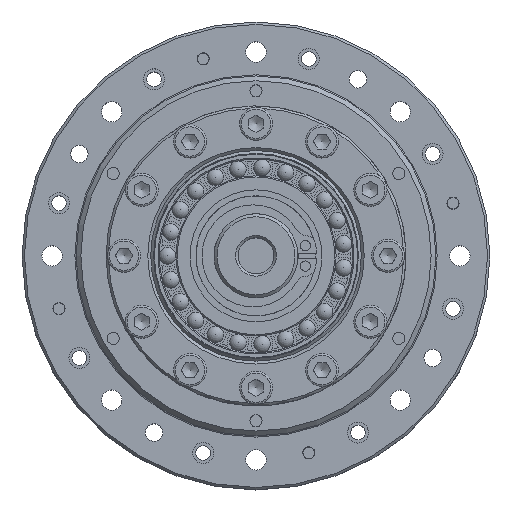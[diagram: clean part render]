
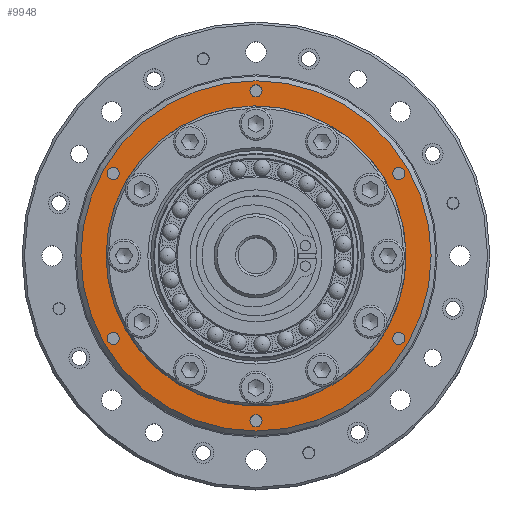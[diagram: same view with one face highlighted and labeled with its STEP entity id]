
A CAD part, top view. The second image highlights one B-rep face of the part: STEP entity #9948.
In plain terms, the highlighted planar face has unit normal (0, 0, 1).
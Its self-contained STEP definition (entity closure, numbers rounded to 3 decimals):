
#1292=PLANE('',#11117);
#1689=FACE_BOUND('',#3203,.T.);
#1690=FACE_BOUND('',#3204,.T.);
#1691=FACE_BOUND('',#3205,.T.);
#1692=FACE_BOUND('',#3206,.T.);
#1693=FACE_BOUND('',#3207,.T.);
#1694=FACE_BOUND('',#3208,.T.);
#1695=FACE_BOUND('',#3209,.T.);
#1696=FACE_BOUND('',#3210,.T.);
#3203=EDGE_LOOP('',(#7845));
#3204=EDGE_LOOP('',(#7846));
#3205=EDGE_LOOP('',(#7847));
#3206=EDGE_LOOP('',(#7848));
#3207=EDGE_LOOP('',(#7849));
#3208=EDGE_LOOP('',(#7850));
#3209=EDGE_LOOP('',(#7851));
#3210=EDGE_LOOP('',(#7852));
#4080=CIRCLE('',#11089,1.007);
#4081=CIRCLE('',#11091,1.007);
#4082=CIRCLE('',#11093,1.007);
#4083=CIRCLE('',#11095,1.007);
#4084=CIRCLE('',#11097,1.007);
#4085=CIRCLE('',#11099,1.007);
#4096=CIRCLE('',#11118,24.65);
#4097=CIRCLE('',#11119,29.2);
#4837=VERTEX_POINT('',#16978);
#4838=VERTEX_POINT('',#16981);
#4839=VERTEX_POINT('',#16984);
#4840=VERTEX_POINT('',#16987);
#4841=VERTEX_POINT('',#16990);
#4842=VERTEX_POINT('',#16993);
#4853=VERTEX_POINT('',#17023);
#4854=VERTEX_POINT('',#17025);
#5924=EDGE_CURVE('',#4837,#4837,#4080,.T.);
#5925=EDGE_CURVE('',#4838,#4838,#4081,.T.);
#5926=EDGE_CURVE('',#4839,#4839,#4082,.T.);
#5927=EDGE_CURVE('',#4840,#4840,#4083,.T.);
#5928=EDGE_CURVE('',#4841,#4841,#4084,.T.);
#5929=EDGE_CURVE('',#4842,#4842,#4085,.T.);
#5940=EDGE_CURVE('',#4853,#4853,#4096,.T.);
#5941=EDGE_CURVE('',#4854,#4854,#4097,.T.);
#7845=ORIENTED_EDGE('',*,*,#5940,.T.);
#7846=ORIENTED_EDGE('',*,*,#5929,.T.);
#7847=ORIENTED_EDGE('',*,*,#5928,.T.);
#7848=ORIENTED_EDGE('',*,*,#5927,.T.);
#7849=ORIENTED_EDGE('',*,*,#5926,.T.);
#7850=ORIENTED_EDGE('',*,*,#5925,.T.);
#7851=ORIENTED_EDGE('',*,*,#5924,.T.);
#7852=ORIENTED_EDGE('',*,*,#5941,.F.);
#9948=ADVANCED_FACE('',(#1689,#1690,#1691,#1692,#1693,#1694,#1695,#1696),
#1292,.T.);
#11089=AXIS2_PLACEMENT_3D('',#16979,#13531,#13532);
#11091=AXIS2_PLACEMENT_3D('',#16982,#13535,#13536);
#11093=AXIS2_PLACEMENT_3D('',#16985,#13539,#13540);
#11095=AXIS2_PLACEMENT_3D('',#16988,#13543,#13544);
#11097=AXIS2_PLACEMENT_3D('',#16991,#13547,#13548);
#11099=AXIS2_PLACEMENT_3D('',#16994,#13551,#13552);
#11117=AXIS2_PLACEMENT_3D('',#17022,#13587,#13588);
#11118=AXIS2_PLACEMENT_3D('',#17024,#13589,#13590);
#11119=AXIS2_PLACEMENT_3D('',#17026,#13591,#13592);
#13531=DIRECTION('center_axis',(0.,0.,-1.));
#13532=DIRECTION('ref_axis',(-1.,0.,0.));
#13535=DIRECTION('center_axis',(0.,0.,-1.));
#13536=DIRECTION('ref_axis',(-1.,0.,0.));
#13539=DIRECTION('center_axis',(0.,0.,-1.));
#13540=DIRECTION('ref_axis',(-1.,0.,0.));
#13543=DIRECTION('center_axis',(0.,0.,-1.));
#13544=DIRECTION('ref_axis',(-1.,0.,0.));
#13547=DIRECTION('center_axis',(0.,0.,-1.));
#13548=DIRECTION('ref_axis',(-1.,0.,0.));
#13551=DIRECTION('center_axis',(0.,0.,-1.));
#13552=DIRECTION('ref_axis',(-1.,0.,0.));
#13587=DIRECTION('center_axis',(0.,0.,1.));
#13588=DIRECTION('ref_axis',(-1.,0.,0.));
#13589=DIRECTION('center_axis',(0.,0.,-1.));
#13590=DIRECTION('ref_axis',(1.,0.,0.));
#13591=DIRECTION('center_axis',(0.,0.,-1.));
#13592=DIRECTION('ref_axis',(0.,-1.,0.));
#16978=CARTESIAN_POINT('',(-24.822,-13.75,21.));
#16979=CARTESIAN_POINT('Origin',(-23.816,-13.75,21.));
#16981=CARTESIAN_POINT('',(-1.007,27.5,21.));
#16982=CARTESIAN_POINT('Origin',(0.,27.5,21.));
#16984=CARTESIAN_POINT('',(22.809,-13.75,21.));
#16985=CARTESIAN_POINT('Origin',(23.816,-13.75,21.));
#16987=CARTESIAN_POINT('',(-1.007,-27.5,21.));
#16988=CARTESIAN_POINT('Origin',(0.,-27.5,21.));
#16990=CARTESIAN_POINT('',(22.809,13.75,21.));
#16991=CARTESIAN_POINT('Origin',(23.816,13.75,21.));
#16993=CARTESIAN_POINT('',(-24.822,13.75,21.));
#16994=CARTESIAN_POINT('Origin',(-23.816,13.75,21.));
#17022=CARTESIAN_POINT('Origin',(0.,19.,21.));
#17023=CARTESIAN_POINT('',(-24.65,0.,21.));
#17024=CARTESIAN_POINT('Origin',(0.,0.,
21.));
#17025=CARTESIAN_POINT('',(0.,29.2,21.));
#17026=CARTESIAN_POINT('Origin',(0.,0.,21.));
